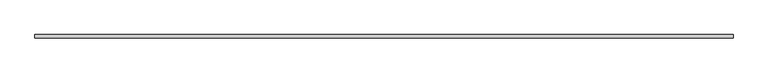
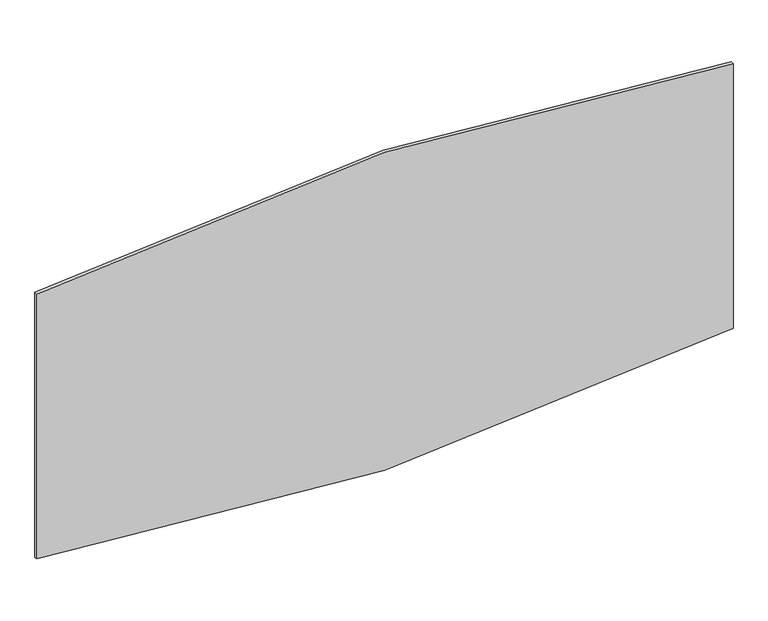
"""IFC4 building model written with IfcOpenShell, lengths in millimetres: proxy geometry, CAMBRIDGE^TABLE 3_2 BASE BOAT-TOP BLOCKING."""

from ifc_helpers import new_model, si_unit, point, frame, frame_2d, origin, place, context, project, spatial, polyline, circle_curve, trimmed, segment, composite_curve, outline, extrude, source, transform, mapped, element, save


def generic_models_c2c81678(model_context):
    return source(origin(), model_context, "Body", "SweptSolid", [
        extrude(outline(composite_curve([segment(trimmed(circle_curve(frame_2d((-8286.75, 0.0)), 8242.3), [point((-151.9984877, 1327.15))], [point((-151.9984877, -1327.15))], False, "CARTESIAN"), True, "CONTINUOUS"), segment(polyline([(-151.9984877, -1327.15), (-1219.6015123, -1327.15)]), True, "CONTINUOUS"), segment(trimmed(circle_curve(frame_2d((6915.15, 0.0)), 8242.3), [point((-1219.6015123, -1327.15))], [point((-1219.6015123, 1327.15))], False, "CARTESIAN"), True, "CONTINUOUS"), segment(polyline([(-1219.6015123, 1327.15), (-151.9984877, 1327.15)]), True, "CONTINUOUS")], self_intersect=False)), frame((0.0, -12.7, 0.0), z_axis=(0.0, 1.0, 0.0), x_axis=(0.0, 0.0, 1.0)), (0.0, 0.0, 1.0), 12.7),
    ])


if __name__ == "__main__":
    model = new_model("IFC4")
    model_context = context("Model", 3, world=origin())
    ifc_project = project(units=[si_unit("LENGTHUNIT", "METRE", prefix="MILLI")], contexts=[model_context])
    site = spatial("IfcSite", under=ifc_project)
    building = spatial("IfcBuilding", under=site)
    placement = place(None, origin())
    generic_models_shape = generic_models_c2c81678(model_context)
    element("IfcBuildingElementProxy", 1, Name="CAMBRIDGE^TABLE 3_2 BASE BOAT-TOP BLOCKING", ObjectType="CAMBRIDGE^TABLE 3_2 BASE BOAT-TOP BLOCKING", at=placement, inside=building, context=model_context, shape_type="MappedRepresentation", body=[
        mapped(generic_models_shape, transform((0.0, 0.0, 0.0), x_axis=(1.0, 0.0, 0.0), y_axis=(0.0, 1.0, 0.0), z_axis=(0.0, 0.0, 1.0))),
    ])
    save(model, "model.ifc")
